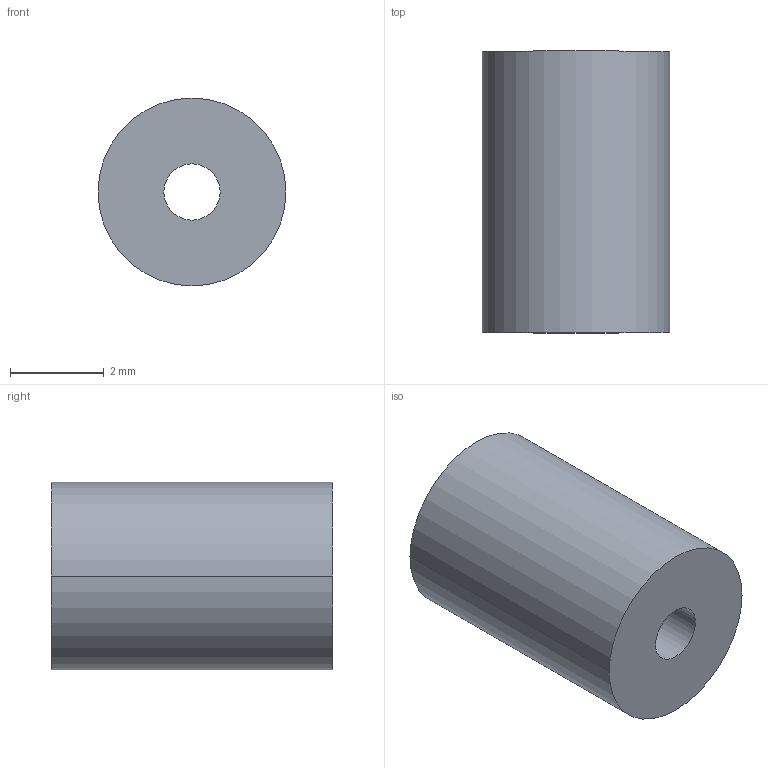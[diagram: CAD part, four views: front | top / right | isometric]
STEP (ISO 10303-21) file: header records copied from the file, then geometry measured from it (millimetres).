
FILE_DESCRIPTION (( 'STEP AP203' ), '1' );
FILE_NAME ('30800.WPP4A1.2.step', '2019-01-23T22:14:02', ( '' ), ( '' ), 'SwSTEP 2.0', 'SolidWorks 2017', '' );
FILE_SCHEMA (( 'CONFIG_CONTROL_DESIGN' ));
Length unit declared in the file: millimetre
Products named in the file (1): 30800.WPP4A1.2
Bounding box: 4 x 6 x 4 mm (x, y, z)
Volume: 67.5 mm3; surface area: 119.7 mm2
Topology: 1 solids, 1 shells, 8 faces, 16 edges, 10 vertices
Faces by surface type: cylinder 4, torus 2, plane 2
Entity records: 297 total; most frequent: DIRECTION 46, CARTESIAN_POINT 35, ORIENTED_EDGE 32, AXIS2_PLACEMENT_3D 21, EDGE_CURVE 16, CIRCLE 12, EDGE_LOOP 10, VERTEX_POINT 10
